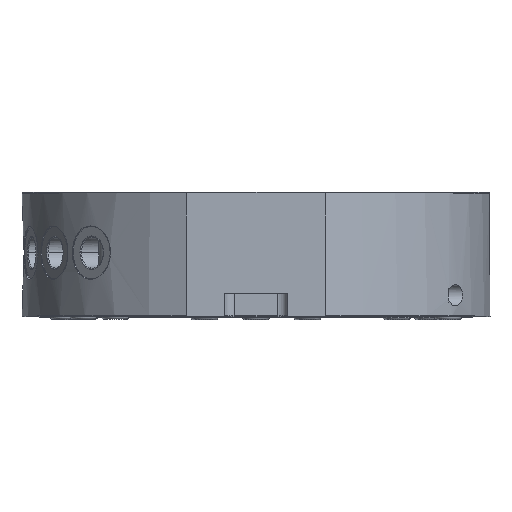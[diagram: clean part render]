
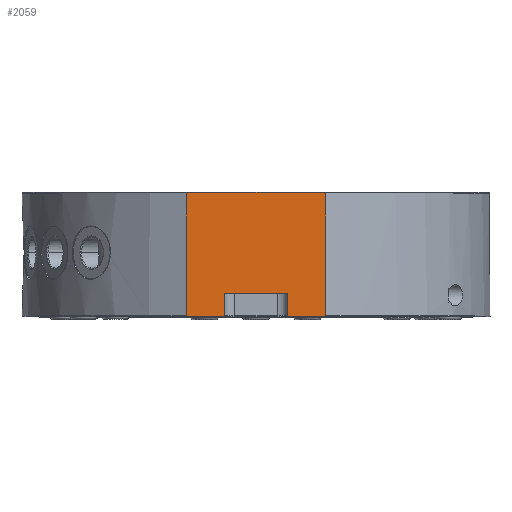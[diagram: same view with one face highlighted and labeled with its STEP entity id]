
A CAD part, top view. The second image highlights one B-rep face of the part: STEP entity #2059.
In plain terms, the highlighted planar face has unit normal (0, 0, 1).
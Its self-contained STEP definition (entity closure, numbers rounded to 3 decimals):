
#93 = B_SPLINE_CURVE_WITH_KNOTS ( 'NONE', 3,
 ( #11503, #15889, #4095, #14427 ),
 .UNSPECIFIED., .F., .F.,
 ( 4, 4 ),
 ( 0.109, 0.11 ),
 .UNSPECIFIED. ) ;
#410 = CARTESIAN_POINT ( 'NONE',  ( 19.672, -34.8, 63. ) ) ;
#1069 = CARTESIAN_POINT ( 'NONE',  ( 19.672, -0.2, 63. ) ) ;
#1242 = EDGE_CURVE ( 'NONE', #5394, #4313, #13195, .T. ) ;
#1245 = FACE_OUTER_BOUND ( 'NONE', #2842, .T. ) ;
#1434 = EDGE_CURVE ( 'NONE', #14812, #18361, #11584, .T. ) ;
#1614 = ORIENTED_EDGE ( 'NONE', *, *, #14023, .T. ) ;
#1668 = LINE ( 'NONE', #14570, #16909 ) ;
#1773 = CARTESIAN_POINT ( 'NONE',  ( -19.56, -34.834, 63. ) ) ;
#1866 = CARTESIAN_POINT ( 'NONE',  ( -9., -34.8, 63. ) ) ;
#1910 = CARTESIAN_POINT ( 'NONE',  ( -19.334, -34.9, 63. ) ) ;
#1991 = CARTESIAN_POINT ( 'NONE',  ( -9., -28.5, 63. ) ) ;
#2059 = ADVANCED_FACE ( 'NONE', ( #1245 ), #4487, .F. ) ;
#2358 = EDGE_CURVE ( 'NONE', #11979, #8601, #1668, .T. ) ;
#2727 = CARTESIAN_POINT ( 'NONE',  ( 18.991, 0., 63. ) ) ;
#2842 = EDGE_LOOP ( 'NONE', ( #4374, #15547, #15000, #14272, #8369, #13345, #1614, #9262, #13004, #3169, #17650, #8335, #8361, #16747 ) ) ;
#2930 = CARTESIAN_POINT ( 'NONE',  ( 19.672, -0.2, 63. ) ) ;
#3026 = VERTEX_POINT ( 'NONE', #14922 ) ;
#3169 = ORIENTED_EDGE ( 'NONE', *, *, #1242, .T. ) ;
#3177 = AXIS2_PLACEMENT_3D ( 'NONE', #11657, #13138, #13207 ) ;
#3217 = CARTESIAN_POINT ( 'NONE',  ( 19.672, -34.8, 63. ) ) ;
#3470 = CARTESIAN_POINT ( 'NONE',  ( -19.672, -34.8, 63. ) ) ;
#3521 = EDGE_CURVE ( 'NONE', #18922, #18600, #10167, .T. ) ;
#3548 = CARTESIAN_POINT ( 'NONE',  ( 9., 0., 63. ) ) ;
#3614 = DIRECTION ( 'NONE',  ( 0., -1., 0. ) ) ;
#3729 = VECTOR ( 'NONE', #3614, 1000. ) ;
#3809 = EDGE_CURVE ( 'NONE', #6693, #14273, #11548, .T. ) ;
#4095 = CARTESIAN_POINT ( 'NONE',  ( -19.445, -0.132, 63. ) ) ;
#4144 = B_SPLINE_CURVE_WITH_KNOTS ( 'NONE', 3,
 ( #1069, #11388, #14376, #15836 ),
 .UNSPECIFIED., .F., .F.,
 ( 4, 4 ),
 ( 0.07, 0.071 ),
 .UNSPECIFIED. ) ;
#4313 = VERTEX_POINT ( 'NONE', #2930 ) ;
#4374 = ORIENTED_EDGE ( 'NONE', *, *, #7718, .T. ) ;
#4487 = PLANE ( 'NONE',  #3177 ) ;
#4601 = CARTESIAN_POINT ( 'NONE',  ( 9., -28.5, 63. ) ) ;
#5394 = VERTEX_POINT ( 'NONE', #410 ) ;
#5493 = B_SPLINE_CURVE_WITH_KNOTS ( 'NONE', 3,
 ( #3470, #1773, #12299, #1910 ),
 .UNSPECIFIED., .F., .F.,
 ( 4, 4 ),
 ( 0.062, 0.062 ),
 .UNSPECIFIED. ) ;
#5895 = VECTOR ( 'NONE', #7888, 1000. ) ;
#5938 = CARTESIAN_POINT ( 'NONE',  ( 19.334, -34.9, 63. ) ) ;
#6232 = CARTESIAN_POINT ( 'NONE',  ( 9.1, -34.9, 63. ) ) ;
#6519 = VECTOR ( 'NONE', #13692, 1000. ) ;
#6693 = VERTEX_POINT ( 'NONE', #9957 ) ;
#6776 = EDGE_CURVE ( 'NONE', #18922, #6693, #93, .T. ) ;
#6963 = DIRECTION ( 'NONE',  ( 1., 0., 0. ) ) ;
#7651 = CARTESIAN_POINT ( 'NONE',  ( -19.672, 0., 63. ) ) ;
#7718 = EDGE_CURVE ( 'NONE', #14273, #11960, #5493, .T. ) ;
#7888 = DIRECTION ( 'NONE',  ( 1., 0., 0. ) ) ;
#8047 = VECTOR ( 'NONE', #10051, 1000. ) ;
#8082 = CARTESIAN_POINT ( 'NONE',  ( -19.672, -34.8, 63. ) ) ;
#8253 = CARTESIAN_POINT ( 'NONE',  ( -31.726, 0., 63. ) ) ;
#8276 = CARTESIAN_POINT ( 'NONE',  ( -9.2, -34.9, 63. ) ) ;
#8335 = ORIENTED_EDGE ( 'NONE', *, *, #3521, .F. ) ;
#8337 = DIRECTION ( 'NONE',  ( 1., 0., 0. ) ) ;
#8361 = ORIENTED_EDGE ( 'NONE', *, *, #6776, .T. ) ;
#8369 = ORIENTED_EDGE ( 'NONE', *, *, #1434, .T. ) ;
#8375 = LINE ( 'NONE', #8276, #10439 ) ;
#8601 = VERTEX_POINT ( 'NONE', #1866 ) ;
#8618 = CARTESIAN_POINT ( 'NONE',  ( -31.726, -28.5, 63. ) ) ;
#9262 = ORIENTED_EDGE ( 'NONE', *, *, #12545, .T. ) ;
#9957 = CARTESIAN_POINT ( 'NONE',  ( -19.672, -0.2, 63. ) ) ;
#10051 = DIRECTION ( 'NONE',  ( 0., 1., 0. ) ) ;
#10099 = CARTESIAN_POINT ( 'NONE',  ( -9.1, -34.9, 63. ) ) ;
#10163 = CARTESIAN_POINT ( 'NONE',  ( -19.334, -34.9, 63. ) ) ;
#10167 = LINE ( 'NONE', #8253, #16426 ) ;
#10439 = VECTOR ( 'NONE', #8337, 1000. ) ;
#10730 = VERTEX_POINT ( 'NONE', #16202 ) ;
#11118 = DIRECTION ( 'NONE',  ( 0.707, 0.707, 0. ) ) ;
#11388 = CARTESIAN_POINT ( 'NONE',  ( 19.445, -0.132, 63. ) ) ;
#11389 = DIRECTION ( 'NONE',  ( 0., 1., 0. ) ) ;
#11503 = CARTESIAN_POINT ( 'NONE',  ( -18.991, 0., 63. ) ) ;
#11548 = LINE ( 'NONE', #7651, #17803 ) ;
#11584 = LINE ( 'NONE', #8618, #15508 ) ;
#11657 = CARTESIAN_POINT ( 'NONE',  ( -31.726, 0., 63. ) ) ;
#11665 = CARTESIAN_POINT ( 'NONE',  ( -9., 0., 63. ) ) ;
#11960 = VERTEX_POINT ( 'NONE', #10163 ) ;
#11979 = VERTEX_POINT ( 'NONE', #10099 ) ;
#12044 = DIRECTION ( 'NONE',  ( 0., -1., 0. ) ) ;
#12177 = CARTESIAN_POINT ( 'NONE',  ( 19.56, -34.834, 63. ) ) ;
#12260 = VECTOR ( 'NONE', #11389, 1000. ) ;
#12299 = CARTESIAN_POINT ( 'NONE',  ( -19.447, -34.867, 63. ) ) ;
#12545 = EDGE_CURVE ( 'NONE', #13561, #10730, #19056, .T. ) ;
#12748 = CARTESIAN_POINT ( 'NONE',  ( 19.672, 0., 63. ) ) ;
#13004 = ORIENTED_EDGE ( 'NONE', *, *, #19024, .T. ) ;
#13138 = DIRECTION ( 'NONE',  ( 0., 0., -1. ) ) ;
#13195 = LINE ( 'NONE', #12748, #12260 ) ;
#13207 = DIRECTION ( 'NONE',  ( -1., 0., 0. ) ) ;
#13345 = ORIENTED_EDGE ( 'NONE', *, *, #14755, .T. ) ;
#13561 = VERTEX_POINT ( 'NONE', #6232 ) ;
#13692 = DIRECTION ( 'NONE',  ( 0.707, -0.707, 0. ) ) ;
#14023 = EDGE_CURVE ( 'NONE', #3026, #13561, #14637, .T. ) ;
#14187 = EDGE_CURVE ( 'NONE', #11960, #11979, #8375, .T. ) ;
#14272 = ORIENTED_EDGE ( 'NONE', *, *, #17668, .T. ) ;
#14273 = VERTEX_POINT ( 'NONE', #8082 ) ;
#14376 = CARTESIAN_POINT ( 'NONE',  ( 19.218, -0.066, 63. ) ) ;
#14427 = CARTESIAN_POINT ( 'NONE',  ( -19.672, -0.2, 63. ) ) ;
#14570 = CARTESIAN_POINT ( 'NONE',  ( -9., -34.8, 63. ) ) ;
#14637 = LINE ( 'NONE', #16795, #6519 ) ;
#14755 = EDGE_CURVE ( 'NONE', #18361, #3026, #15966, .T. ) ;
#14812 = VERTEX_POINT ( 'NONE', #1991 ) ;
#14922 = CARTESIAN_POINT ( 'NONE',  ( 9., -34.8, 63. ) ) ;
#15000 = ORIENTED_EDGE ( 'NONE', *, *, #2358, .T. ) ;
#15508 = VECTOR ( 'NONE', #18941, 1000. ) ;
#15547 = ORIENTED_EDGE ( 'NONE', *, *, #14187, .T. ) ;
#15836 = CARTESIAN_POINT ( 'NONE',  ( 18.991, 0., 63. ) ) ;
#15889 = CARTESIAN_POINT ( 'NONE',  ( -19.218, -0.066, 63. ) ) ;
#15896 = LINE ( 'NONE', #11665, #8047 ) ;
#15966 = LINE ( 'NONE', #3548, #3729 ) ;
#16200 = CARTESIAN_POINT ( 'NONE',  ( -18.991, 0., 63. ) ) ;
#16202 = CARTESIAN_POINT ( 'NONE',  ( 19.334, -34.9, 63. ) ) ;
#16415 = EDGE_CURVE ( 'NONE', #4313, #18600, #4144, .T. ) ;
#16426 = VECTOR ( 'NONE', #6963, 1000. ) ;
#16520 = B_SPLINE_CURVE_WITH_KNOTS ( 'NONE', 3,
 ( #5938, #17571, #12177, #3217 ),
 .UNSPECIFIED., .F., .F.,
 ( 4, 4 ),
 ( 0.101, 0.102 ),
 .UNSPECIFIED. ) ;
#16747 = ORIENTED_EDGE ( 'NONE', *, *, #3809, .T. ) ;
#16795 = CARTESIAN_POINT ( 'NONE',  ( 9., -34.8, 63. ) ) ;
#16909 = VECTOR ( 'NONE', #11118, 1000. ) ;
#17571 = CARTESIAN_POINT ( 'NONE',  ( 19.447, -34.867, 63. ) ) ;
#17650 = ORIENTED_EDGE ( 'NONE', *, *, #16415, .T. ) ;
#17668 = EDGE_CURVE ( 'NONE', #8601, #14812, #15896, .T. ) ;
#17803 = VECTOR ( 'NONE', #12044, 1000. ) ;
#18163 = CARTESIAN_POINT ( 'NONE',  ( 18.991, -34.9, 63. ) ) ;
#18361 = VERTEX_POINT ( 'NONE', #4601 ) ;
#18600 = VERTEX_POINT ( 'NONE', #2727 ) ;
#18922 = VERTEX_POINT ( 'NONE', #16200 ) ;
#18941 = DIRECTION ( 'NONE',  ( 1., 0., 0. ) ) ;
#19024 = EDGE_CURVE ( 'NONE', #10730, #5394, #16520, .T. ) ;
#19056 = LINE ( 'NONE', #18163, #5895 ) ;
